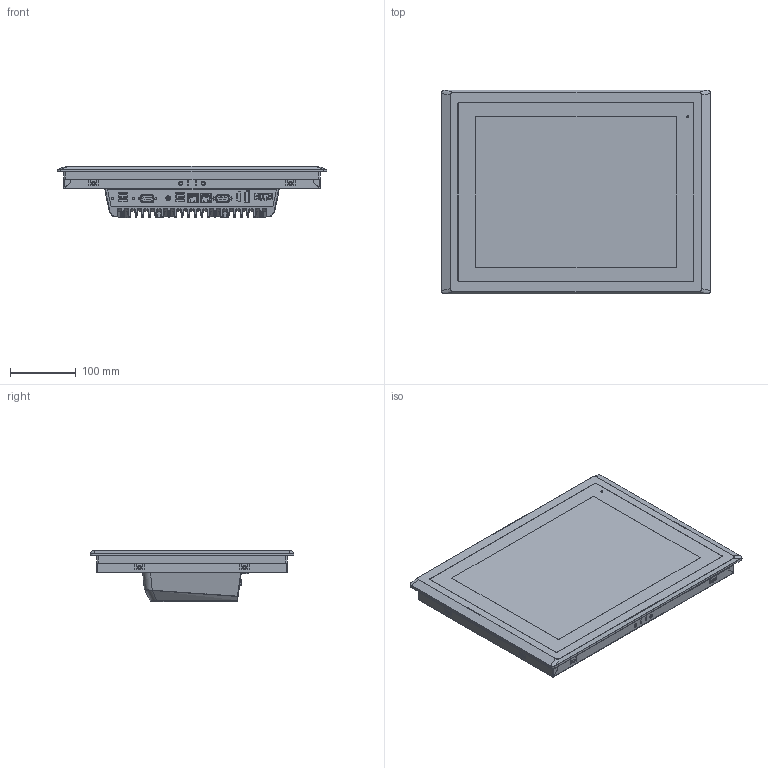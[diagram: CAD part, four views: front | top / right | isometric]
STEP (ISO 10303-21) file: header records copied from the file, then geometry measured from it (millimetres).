
FILE_DESCRIPTION (( 'STEP AP214' ), '1' );
FILE_NAME ('OMI6815C.STEP', '2025-06-24T19:19:38', ( '' ), ( '' ), 'SwSTEP 2.0', 'SolidWorks 2019', '' );
FILE_SCHEMA (( 'AUTOMOTIVE_DESIGN' ));
Length unit declared in the file: inch
Products named in the file (1): OMI6815C
Bounding box: 410.2 x 310.2 x 78.7 mm (x, y, z)
Surface area: 439876.4 mm2 (no closed solid volume)
Topology: 0 solids, 42 shells, 1540 faces, 5354 edges, 3670 vertices
Faces by surface type: cylinder 623, plane 531, bspline 311, cone 62, torus 13
Entity records: 89973 total; most frequent: CARTESIAN_POINT 28381, ORIENTED_EDGE 8238, DIRECTION 7625, EDGE_CURVE 5330, VERTEX_POINT 3670, LINE 2853, VECTOR 2853, AXIS2_PLACEMENT_3D 2386
